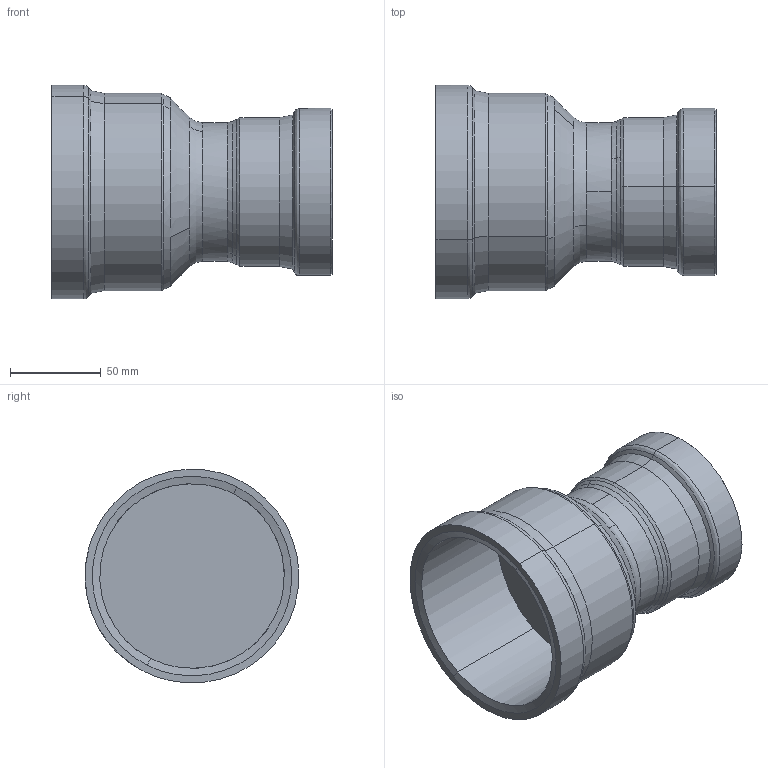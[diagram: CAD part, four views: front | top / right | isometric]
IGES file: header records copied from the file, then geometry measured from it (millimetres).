
Start section: 3D InterOp IGES (Version 25 0 1), Spatial Corp. Copyright (c) 1999-2007.
Global section: file name: pim0004393.igs; native system: Spatial Corp.; preprocessor: 3D InterOp ACIS/IGES; author: Cad-Pim; organization: TransMagic, Inc.; date: 20150430.133620; units: millimetre
Bounding box: 153.92 x 117.45 x 117.37 mm (x, y, z)
Volume: 416580.7 mm3; surface area: 97234.2 mm2
Topology: 1 solids, 1 shells, 53 faces, 146 edges, 96 vertices
Faces by surface type: bspline 19, cone 18, cylinder 16
